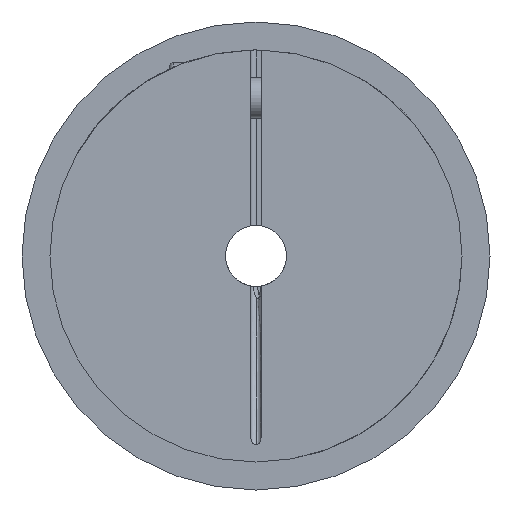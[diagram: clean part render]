
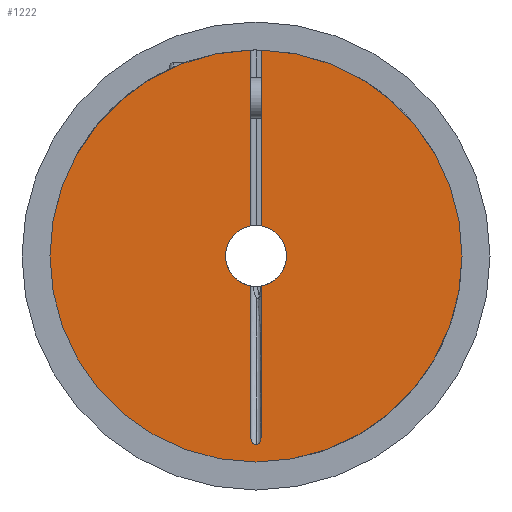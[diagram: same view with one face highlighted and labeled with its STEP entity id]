
A CAD part, left-side view. The second image highlights one B-rep face of the part: STEP entity #1222.
In plain terms, the highlighted planar face has unit normal (-1, 0, 0).
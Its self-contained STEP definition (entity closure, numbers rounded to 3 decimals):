
#2 = EDGE_CURVE ( 'NONE', #2521, #2475, #628, .T. ) ;
#9 = CARTESIAN_POINT ( 'NONE',  ( 0., -0.5, 0. ) ) ;
#71 = CARTESIAN_POINT ( 'NONE',  ( 0., 0., -18.545 ) ) ;
#85 = CARTESIAN_POINT ( 'NONE',  ( 0., -0.5, -17.906 ) ) ;
#138 = DIRECTION ( 'NONE',  ( 0., -1., 0. ) ) ;
#149 = AXIS2_PLACEMENT_3D ( 'NONE', #2236, #3007, #1719 ) ;
#265 = LINE ( 'NONE', #9, #3168 ) ;
#296 = CARTESIAN_POINT ( 'NONE',  ( 0., 0., -18.545 ) ) ;
#303 = EDGE_CURVE ( 'NONE', #1925, #2521, #541, .T. ) ;
#359 = ORIENTED_EDGE ( 'NONE', *, *, #1635, .T. ) ;
#457 = CARTESIAN_POINT ( 'NONE',  ( 0., 0.5, -17.825 ) ) ;
#536 = AXIS2_PLACEMENT_3D ( 'NONE', #1487, #3303, #3045 ) ;
#537 = CARTESIAN_POINT ( 'NONE',  ( 0., -0.082, -18.545 ) ) ;
#541 = B_SPLINE_CURVE_WITH_KNOTS ( 'NONE', 3,
 ( #1597, #85, #1570, #3103, #792, #2837, #822, #2626, #537, #296 ),
 .UNSPECIFIED., .F., .F.,
 ( 4, 2, 2, 2, 4 ),
 ( 0., 0., 0., 0.001, 0.001 ),
 .UNSPECIFIED. ) ;
#550 = EDGE_CURVE ( 'NONE', #1102, #2839, #910, .T. ) ;
#628 = B_SPLINE_CURVE_WITH_KNOTS ( 'NONE', 3,
 ( #2087, #2270, #2943, #1419, #3005, #701, #3233, #457 ),
 .UNSPECIFIED., .F., .F.,
 ( 4, 2, 2, 4 ),
 ( 0., 0., 0., 0.001 ),
 .UNSPECIFIED. ) ;
#636 = CARTESIAN_POINT ( 'NONE',  ( 0., -0.5, 20.244 ) ) ;
#701 = CARTESIAN_POINT ( 'NONE',  ( 0., 0.465, -18.148 ) ) ;
#702 = LINE ( 'NONE', #2422, #2845 ) ;
#760 = ORIENTED_EDGE ( 'NONE', *, *, #303, .T. ) ;
#792 = CARTESIAN_POINT ( 'NONE',  ( 0., -0.425, -18.218 ) ) ;
#822 = CARTESIAN_POINT ( 'NONE',  ( 0., -0.292, -18.42 ) ) ;
#852 = VECTOR ( 'NONE', #1896, 1000. ) ;
#910 = CIRCLE ( 'NONE', #1927, 20.25 ) ;
#923 = EDGE_CURVE ( 'NONE', #2584, #1044, #702, .T. ) ;
#944 = LINE ( 'NONE', #2701, #852 ) ;
#947 = DIRECTION ( 'NONE',  ( 0., 0., 1. ) ) ;
#1031 = DIRECTION ( 'NONE',  ( -1., 0., 0. ) ) ;
#1038 = ORIENTED_EDGE ( 'NONE', *, *, #923, .T. ) ;
#1044 = VERTEX_POINT ( 'NONE', #2707 ) ;
#1060 = VERTEX_POINT ( 'NONE', #1659 ) ;
#1101 = CARTESIAN_POINT ( 'NONE',  ( 0., -20.25, 0. ) ) ;
#1102 = VERTEX_POINT ( 'NONE', #1163 ) ;
#1149 = ORIENTED_EDGE ( 'NONE', *, *, #1252, .F. ) ;
#1151 = EDGE_LOOP ( 'NONE', ( #1149, #2283, #1154, #760, #2799, #359, #1193, #1038, #1514, #1962, #2711 ) ) ;
#1154 = ORIENTED_EDGE ( 'NONE', *, *, #2863, .F. ) ;
#1163 = CARTESIAN_POINT ( 'NONE',  ( 0., 20.25, 0. ) ) ;
#1178 = EDGE_CURVE ( 'NONE', #1044, #1102, #3061, .T. ) ;
#1193 = ORIENTED_EDGE ( 'NONE', *, *, #1330, .F. ) ;
#1222 = ADVANCED_FACE ( 'NONE', ( #1642 ), #2289, .F. ) ;
#1252 = EDGE_CURVE ( 'NONE', #1060, #2545, #265, .T. ) ;
#1272 = DIRECTION ( 'NONE',  ( 0., 0., 1. ) ) ;
#1289 = CARTESIAN_POINT ( 'NONE',  ( 0., 0., 0. ) ) ;
#1330 = EDGE_CURVE ( 'NONE', #2584, #2918, #3228, .T. ) ;
#1338 = CARTESIAN_POINT ( 'NONE',  ( 0., -0.5, 0. ) ) ;
#1345 = CARTESIAN_POINT ( 'NONE',  ( 0., 0.5, -17.825 ) ) ;
#1419 = CARTESIAN_POINT ( 'NONE',  ( 0., 0.291, -18.421 ) ) ;
#1487 = CARTESIAN_POINT ( 'NONE',  ( 0., 0., 0. ) ) ;
#1514 = ORIENTED_EDGE ( 'NONE', *, *, #1178, .T. ) ;
#1521 = DIRECTION ( 'NONE',  ( 0., 0., 1. ) ) ;
#1524 = CARTESIAN_POINT ( 'NONE',  ( 0., 0., 0. ) ) ;
#1570 = CARTESIAN_POINT ( 'NONE',  ( 0., -0.491, -17.985 ) ) ;
#1583 = VECTOR ( 'NONE', #2647, 1000. ) ;
#1597 = CARTESIAN_POINT ( 'NONE',  ( 0., -0.5, -17.825 ) ) ;
#1623 = LINE ( 'NONE', #1338, #1583 ) ;
#1630 = CIRCLE ( 'NONE', #2551, 3. ) ;
#1635 = EDGE_CURVE ( 'NONE', #2475, #2918, #944, .T. ) ;
#1642 = FACE_OUTER_BOUND ( 'NONE', #1151, .T. ) ;
#1655 = CARTESIAN_POINT ( 'NONE',  ( 0., 0., 0. ) ) ;
#1659 = CARTESIAN_POINT ( 'NONE',  ( 0., -0.5, 2.958 ) ) ;
#1719 = DIRECTION ( 'NONE',  ( 0., -1., 0. ) ) ;
#1772 = EDGE_CURVE ( 'NONE', #2839, #2545, #1958, .T. ) ;
#1794 = DIRECTION ( 'NONE',  ( -1., 0., 0. ) ) ;
#1854 = CARTESIAN_POINT ( 'NONE',  ( 0., 0.5, -2.958 ) ) ;
#1896 = DIRECTION ( 'NONE',  ( 0., 0., 1. ) ) ;
#1925 = VERTEX_POINT ( 'NONE', #2344 ) ;
#1927 = AXIS2_PLACEMENT_3D ( 'NONE', #3062, #1031, #2059 ) ;
#1958 = CIRCLE ( 'NONE', #3267, 20.25 ) ;
#1962 = ORIENTED_EDGE ( 'NONE', *, *, #550, .T. ) ;
#2059 = DIRECTION ( 'NONE',  ( 0., -1., 0. ) ) ;
#2087 = CARTESIAN_POINT ( 'NONE',  ( 0., 0., -18.545 ) ) ;
#2236 = CARTESIAN_POINT ( 'NONE',  ( 0., 0., 0. ) ) ;
#2270 = CARTESIAN_POINT ( 'NONE',  ( 0., 0.082, -18.545 ) ) ;
#2283 = ORIENTED_EDGE ( 'NONE', *, *, #2775, .F. ) ;
#2289 = PLANE ( 'NONE',  #2723 ) ;
#2344 = CARTESIAN_POINT ( 'NONE',  ( 0., -0.5, -17.825 ) ) ;
#2422 = CARTESIAN_POINT ( 'NONE',  ( 0., 0.5, 0. ) ) ;
#2431 = DIRECTION ( 'NONE',  ( -1., 0., 0. ) ) ;
#2475 = VERTEX_POINT ( 'NONE', #1345 ) ;
#2490 = VERTEX_POINT ( 'NONE', #3185 ) ;
#2521 = VERTEX_POINT ( 'NONE', #71 ) ;
#2545 = VERTEX_POINT ( 'NONE', #636 ) ;
#2551 = AXIS2_PLACEMENT_3D ( 'NONE', #1524, #1794, #1272 ) ;
#2584 = VERTEX_POINT ( 'NONE', #2765 ) ;
#2626 = CARTESIAN_POINT ( 'NONE',  ( 0., -0.161, -18.516 ) ) ;
#2647 = DIRECTION ( 'NONE',  ( 0., 0., 1. ) ) ;
#2701 = CARTESIAN_POINT ( 'NONE',  ( 0., 0.5, 0. ) ) ;
#2707 = CARTESIAN_POINT ( 'NONE',  ( 0., 0.5, 20.244 ) ) ;
#2711 = ORIENTED_EDGE ( 'NONE', *, *, #1772, .T. ) ;
#2723 = AXIS2_PLACEMENT_3D ( 'NONE', #1289, #3341, #3098 ) ;
#2765 = CARTESIAN_POINT ( 'NONE',  ( 0., 0.5, 2.958 ) ) ;
#2775 = EDGE_CURVE ( 'NONE', #2490, #1060, #1630, .T. ) ;
#2799 = ORIENTED_EDGE ( 'NONE', *, *, #2, .T. ) ;
#2837 = CARTESIAN_POINT ( 'NONE',  ( 0., -0.344, -18.357 ) ) ;
#2839 = VERTEX_POINT ( 'NONE', #1101 ) ;
#2845 = VECTOR ( 'NONE', #947, 1000. ) ;
#2863 = EDGE_CURVE ( 'NONE', #1925, #2490, #1623, .T. ) ;
#2918 = VERTEX_POINT ( 'NONE', #1854 ) ;
#2943 = CARTESIAN_POINT ( 'NONE',  ( 0., 0.16, -18.516 ) ) ;
#3005 = CARTESIAN_POINT ( 'NONE',  ( 0., 0.344, -18.357 ) ) ;
#3007 = DIRECTION ( 'NONE',  ( -1., 0., 0. ) ) ;
#3045 = DIRECTION ( 'NONE',  ( 0., 0., 1. ) ) ;
#3061 = CIRCLE ( 'NONE', #149, 20.25 ) ;
#3062 = CARTESIAN_POINT ( 'NONE',  ( 0., 0., 0. ) ) ;
#3098 = DIRECTION ( 'NONE',  ( 0., 1., 0. ) ) ;
#3103 = CARTESIAN_POINT ( 'NONE',  ( 0., -0.454, -18.141 ) ) ;
#3168 = VECTOR ( 'NONE', #1521, 1000. ) ;
#3185 = CARTESIAN_POINT ( 'NONE',  ( 0., -0.5, -2.958 ) ) ;
#3228 = CIRCLE ( 'NONE', #536, 3. ) ;
#3233 = CARTESIAN_POINT ( 'NONE',  ( 0., 0.5, -17.987 ) ) ;
#3267 = AXIS2_PLACEMENT_3D ( 'NONE', #1655, #2431, #138 ) ;
#3303 = DIRECTION ( 'NONE',  ( -1., 0., 0. ) ) ;
#3341 = DIRECTION ( 'NONE',  ( 1., 0., 0. ) ) ;
